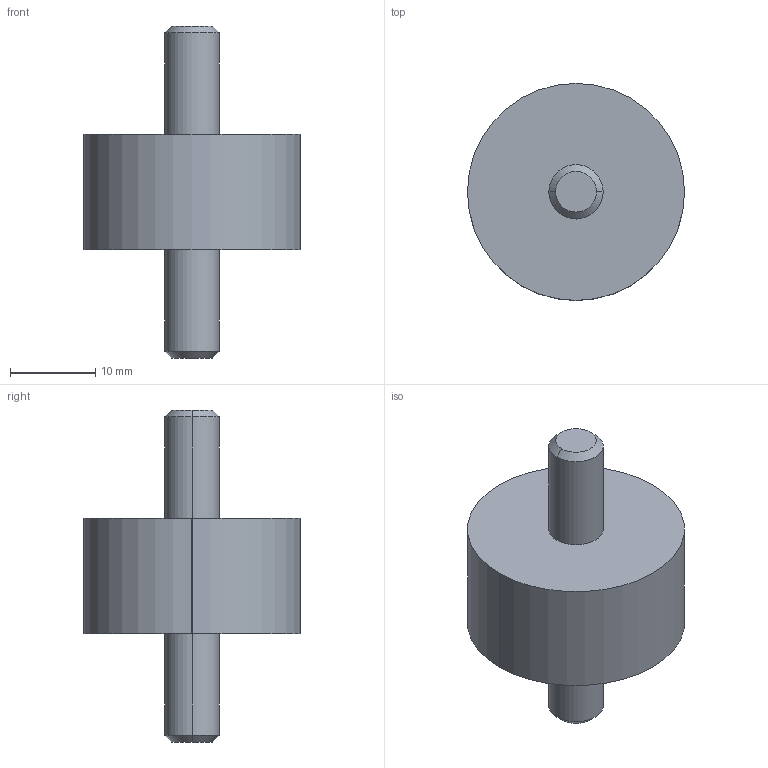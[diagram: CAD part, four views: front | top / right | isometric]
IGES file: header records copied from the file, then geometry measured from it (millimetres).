
Global section: file name: C:\Documents and Settings\Administrator\Desktop\Transfer Temp\pm-1420-45ss.igs; native system: AutoDesk Inventor R2.0 ; preprocessor: AutoDesk Inventor Iges Exporter R2.0; author: No Author specified; organization: No Organization specified; date: 20011226.202346; units: inch
Bounding box: 25.4 x 25.4 x 38.86 mm (x, y, z)
Surface area: 2574.2 mm2 (no closed solid volume)
Topology: 0 solids, 0 shells, 14 faces, 52 edges, 52 vertices
Faces by surface type: revolution 10, bspline 4
